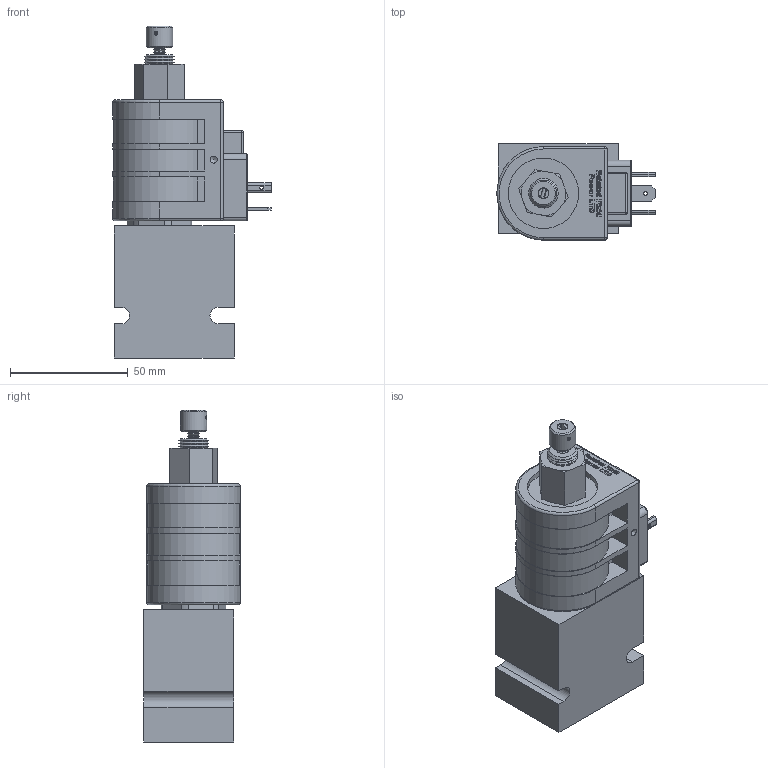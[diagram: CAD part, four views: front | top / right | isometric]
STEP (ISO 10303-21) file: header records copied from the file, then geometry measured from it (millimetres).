
FILE_DESCRIPTION( ( 'Unknown' ), '1' );
FILE_NAME( 'G:/Graphic Design/Graphic Design 2/Data Sheets/SOLENOID OPERATED VALVES/4_STEP/2W2P Normally Open/DE-S2C0M-B2.stp', 'Unknown', ( 'Unknown' ), ( 'Unknown' ), 'PSStep 15.0.49', 'Unknown', ' ' );
FILE_SCHEMA( ( 'AUTOMOTIVE_DESIGN { 1 0 10303 214 1 1 1 1 }' ) );
Length unit declared in the file: millimetre
Products named in the file (18): D-DE-S2C-0K-Delta; DES2C0K-3D Full1; DES2C0K-3D Full2; DES2C0K-3D Full3; DES2C0K-3D Full4; DES2C0K-3D Full5; DES2C0K-3D Full6; Delta_1_2_nut_LONG1; D-DHC12_24; DHC-Body; DHC-Disc; DHC-Disc-oa0; PT-EL-HC-TerminalConnectors; Assem1; B-DDEB2
Assembly tree (17 placements, depth 3):
  Assem1
    B-DDEB2
    D-DHC12_24
      DHC-Body
      DHC-Disc
      DHC-Disc-oa0
      PT-EL-HC-TerminalConnectors
      PT-EL-HC-TerminalConnectors
      PT-EL-HC-TerminalConnectors
      PT-EL-HC-TerminalConnectors
    D-DE-S2C-0K-Delta
      DES2C0K-3D Full1
      DES2C0K-3D Full2
      DES2C0K-3D Full3
      DES2C0K-3D Full4
      DES2C0K-3D Full5
      DES2C0K-3D Full6
      Delta_1_2_nut_LONG1
Bounding box: 67.2 x 40.9 x 140.82 mm (x, y, z)
Volume: 191088.3 mm3; surface area: 49169 mm2
Topology: 15 solids, 15 shells, 695 faces, 1747 edges, 1125 vertices
Faces by surface type: plane 332, cone 128, extrusion 118, cylinder 98, torus 13, sphere 6
Full cylindrical faces by diameter (mm): 0.2 x2, 1 x1, 1.5 x3, 1.613 x2, 2.261 x1, 2.5 x1, 3 x2, 3.454 x6, 4.318 x1, 7.95 x1, 11.024 x1, 11.176 x1, 12 x1, 12.675 x1, 12.7 x2, 12.992 x1, 13 x1, 13.043 x1, 13.3 x1, 14 x1, 15 x4, 15.735 x1, 15.773 x2, 15.9 x1, 17.043 x1, 17.323 x1, 19.622 x1, 20.262 x2, 24.2 x2, 29.85 x2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
Entity records: 27084 total; most frequent: CARTESIAN_POINT 5978, ORIENTED_EDGE 3130, DIRECTION 2765, EDGE_CURVE 1565, VERTEX_POINT 1091, VECTOR 931, AXIS2_PLACEMENT_3D 917, EDGE_LOOP 908
